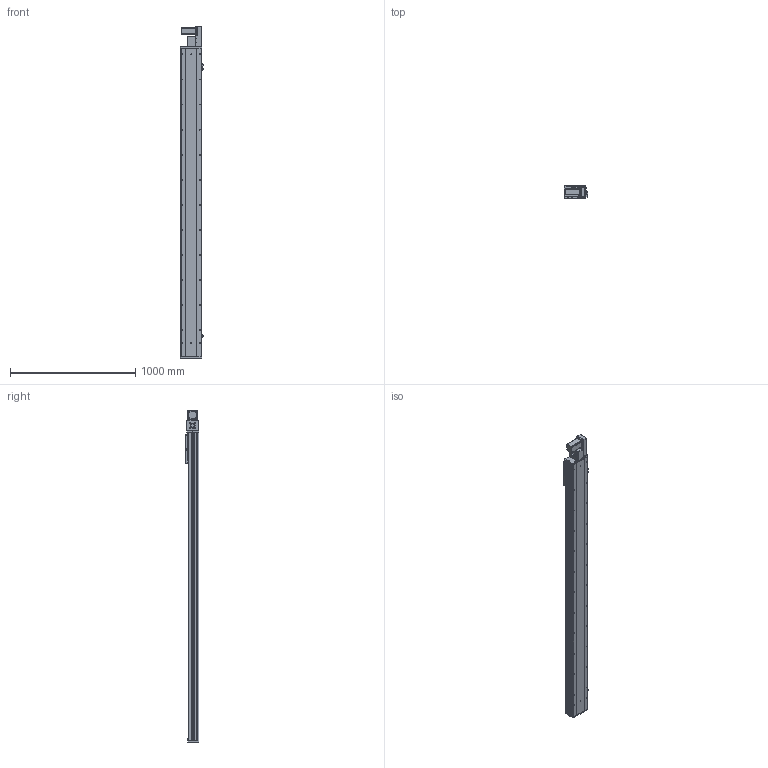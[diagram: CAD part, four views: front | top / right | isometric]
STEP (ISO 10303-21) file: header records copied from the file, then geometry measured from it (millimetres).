
FILE_DESCRIPTION (( 'STEP AP203' ), '1' );
FILE_NAME ('Y170CB-D105-S2150-BR-P400W.STEP', '2020-02-19T09:42:10', ( '微软用户' ), ( '微软中国' ), 'SwSTEP 2.0', 'SolidWorks 2017', '' );
FILE_SCHEMA (( 'CONFIG_CONTROL_DESIGN' ));
Length unit declared in the file: millimetre
Products named in the file (17): 70B喘謫眊----; B-源倛裔啣; 17B-耜蚾蟀諉啣----; 0B-萇儂楊擘啣; san松下电机400不带刹车----; Y70俋欶BR----; 70CB-掛极-; --70CB --喘謫眊楊擘啣-; 70CB-耜裔啣-; 70C--詩湍揤踡え-; 70CB--耜裔; 70C-雄赽釱-奻-; 0C--雄赽釱俋欶-170; 70CB-詩湍--; Y100-135俋离換覜ん--; Y170CB-陔俋离換覜結え---; Y170CB-D105-S2150-BR-P400W
Assembly tree (20 placements, depth 2):
  Y170CB-D105-S2150-BR-P400W
    70B喘謫眊----
    B-源倛裔啣
    17B-耜蚾蟀諉啣----
    0B-萇儂楊擘啣
    san松下电机400不带刹车----
    Y70俋欶BR----
    70CB-掛极-
    --70CB --喘謫眊楊擘啣-
    70CB-耜裔啣-  x2
    70C--詩湍揤踡え-  x2
    70CB--耜裔
    70C-雄赽釱-奻-
    0C--雄赽釱俋欶-170
    70CB-詩湍--
    Y100-135俋离換覜ん--  x3
    Y170CB-陔俋离換覜結え---
Bounding box: 183.5 x 107 x 2647 mm (x, y, z)
Volume: 11060007.7 mm3; surface area: 3982472.7 mm2
Topology: 20 solids, 20 shells, 1041 faces, 2801 edges, 1858 vertices
Faces by surface type: cylinder 555, plane 462, cone 24
Entity records: 33211 total; most frequent: CARTESIAN_POINT 6141, DIRECTION 5404, ORIENTED_EDGE 5084, EDGE_CURVE 2542, AXIS2_PLACEMENT_3D 1985, VERTEX_POINT 1688, LINE 1434, VECTOR 1434
